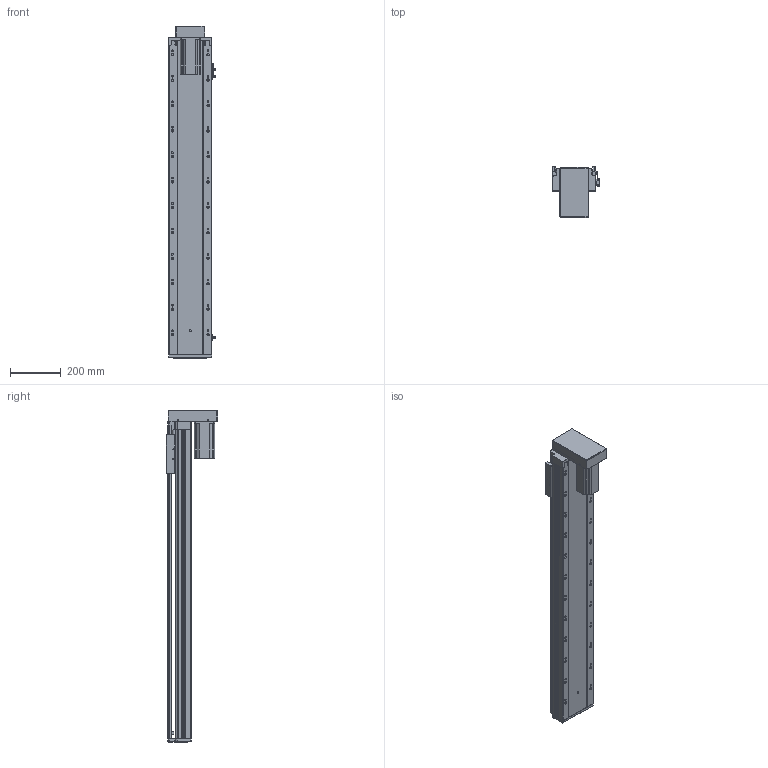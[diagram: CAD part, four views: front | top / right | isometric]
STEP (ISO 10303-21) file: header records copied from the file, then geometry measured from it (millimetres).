
FILE_DESCRIPTION (( 'STEP AP203' ), '1' );
FILE_NAME ('RY170-L2510-300-BK.SLDASM_1000.step', '2021-03-12T08:57:12', ( '盈信电脑' ), ( '东莞市道滘镇水果街19号' ), 'SwSTEP 2.0', 'SolidWorks 2012', '' );
FILE_SCHEMA (( 'CONFIG_CONTROL_DESIGN' ));
Products named in the file (14): RY170-L2510-300-BK.SLDASM_1000; 怢湛750W萇儂ㄗ80遺ㄘ; RY170狟殏萇儂欶; RY170-狟殏萇儂假蚾啣; RY170-狟殏750W萇儂傷; RY170外置感应片(200共用）; 滅袉蝶18-10; 滅袉蝶18-20; RY170转折电机端支撑座(7004); 覜茼ん672; RY170綴裔啣; RY170-300倰第裔啣-BK_1000; RY170-300倰第菁釱-BK_1000; 改造-RY170铝滑块25丝杆螺母
Assembly tree (15 placements, depth 3):
  RY170-L2510-300-BK.SLDASM_1000
    RY170-300倰第菁釱-BK_1000
    改造-RY170铝滑块25丝杆螺母
    RY170-300倰第裔啣-BK_1000
    RY170綴裔啣
    覜茼ん672  x3
    RY170外置感应片(200共用）
    滅袉蝶18-20
    滅袉蝶18-10
    RY170转折电机端支撑座(7004)
    RY170-狟殏750W萇儂傷
      RY170-狟殏萇儂假蚾啣
      RY170狟殏萇儂欶
      怢湛750W萇儂ㄗ80遺ㄘ
Bounding box: 183.7 x 200.8 x 1304.5 mm (x, y, z)
Volume: 7170518.7 mm3; surface area: 2240041.7 mm2
Topology: 14 solids, 14 shells, 2304 faces, 6729 edges, 4326 vertices
Faces by surface type: plane 1090, cylinder 1009, cone 186, bspline 19
Entity records: 76770 total; most frequent: CARTESIAN_POINT 19472, ORIENTED_EDGE 12178, DIRECTION 11007, EDGE_CURVE 6089, VERTEX_POINT 4006, AXIS2_PLACEMENT_3D 3699, LINE 3609, VECTOR 3609
